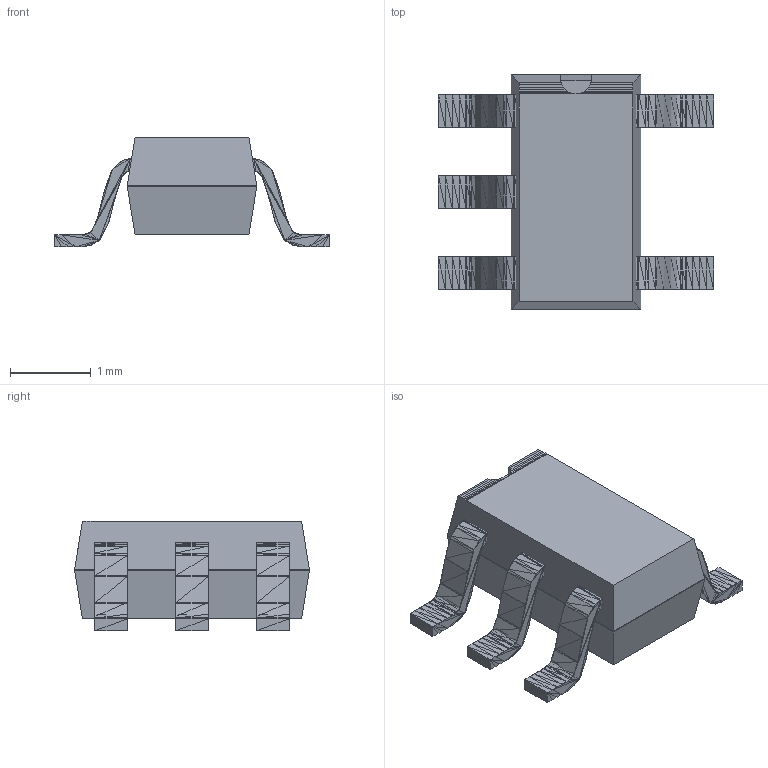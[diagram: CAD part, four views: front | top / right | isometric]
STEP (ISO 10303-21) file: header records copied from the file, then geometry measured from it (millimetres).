
FILE_DESCRIPTION(('shape.step'),'2;1');
FILE_NAME('shape.step','2026-11-04',('tscircuit'),('tscircuit'),'generator','','');
FILE_SCHEMA(('AUTOMOTIVE_DESIGN { 1 0 10303 214 1 1 1 1 }'));
Length unit declared in the file: millimetre
Products named in the file (1): shape
Bounding box: 3.4 x 2.9 x 1.35 mm (x, y, z)
Volume: 5.6 mm3; surface area: 29.5 mm2
Topology: 6 solids, 6 shells, 991 faces, 1529 edges, 550 vertices
Faces by surface type: plane 991
Entity records: 18278 total; most frequent: DIRECTION 3513, ORIENTED_EDGE 3058, CARTESIAN_POINT 1542, VECTOR 1529, LINE 1529, EDGE_CURVE 1529, AXIS2_PLACEMENT_3D 992, PLANE 991
